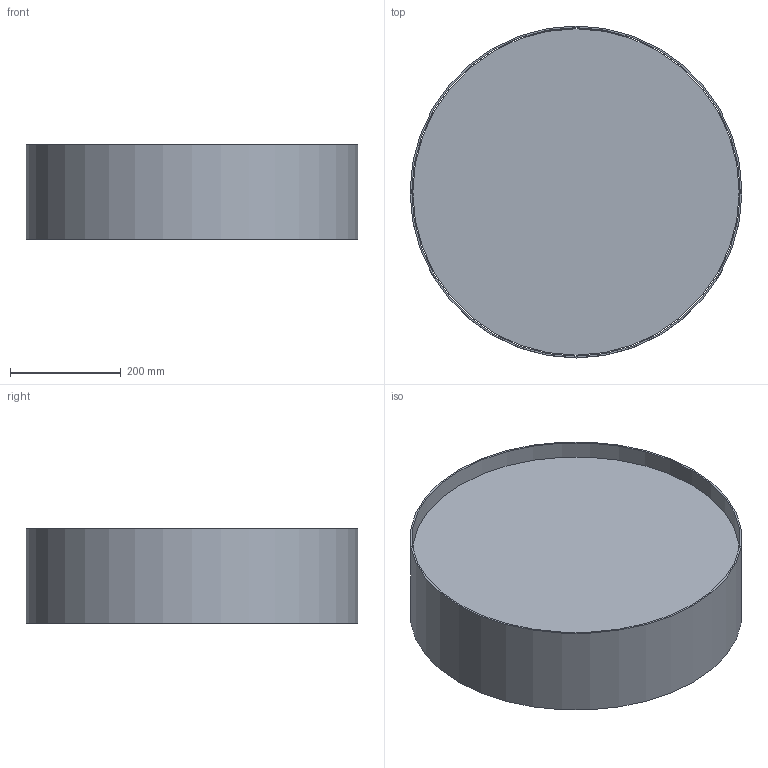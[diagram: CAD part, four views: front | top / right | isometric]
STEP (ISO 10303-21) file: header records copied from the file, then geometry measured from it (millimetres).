
FILE_DESCRIPTION(/* description */ (''),/* implementation_level */ '2;1');
FILE_NAME(/* name */ 'D:\TK Lighting\2021\_Bilbao\3432.stp',/* time_stamp */ '2021-03-03T14:50:59+01:00',/* author */ ('Admin'),/* organization */ (''),/* preprocessor_version */ 'ST-DEVELOPER v16.5',/* originating_system */ 'Autodesk Inventor 2017',/* authorisation */ '');
FILE_SCHEMA (('AUTOMOTIVE_DESIGN { 1 0 10303 214 3 1 1 }'));
Length unit declared in the file: millimetre
Products named in the file (1): 3432
Bounding box: 600 x 600 x 170 mm (x, y, z)
Volume: 2352900.2 mm3; surface area: 1222894.5 mm2
Topology: 3 solids, 3 shells, 16 faces, 30 edges, 20 vertices
Faces by surface type: plane 10, cylinder 6
Full cylindrical faces by diameter (mm): 3 x3, 590 x1, 594 x1, 600 x1
Entity records: 451 total; most frequent: DIRECTION 70, CARTESIAN_POINT 61, ORIENTED_EDGE 48, EDGE_LOOP 30, AXIS2_PLACEMENT_3D 29, EDGE_CURVE 24, VERTEX_POINT 20, FACE_OUTER_BOUND 16
